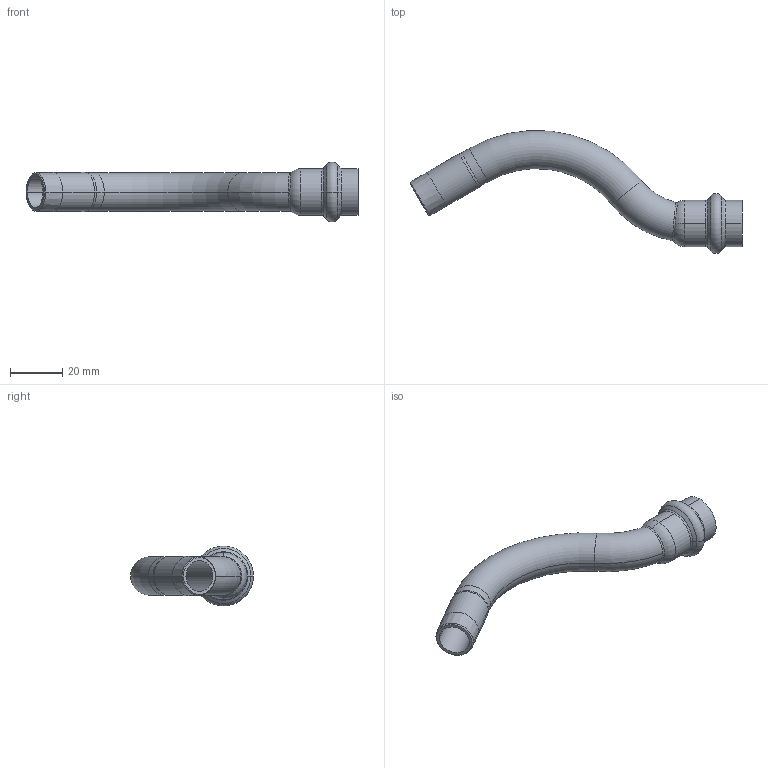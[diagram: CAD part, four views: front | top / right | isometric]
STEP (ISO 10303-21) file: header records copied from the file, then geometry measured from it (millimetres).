
FILE_DESCRIPTION (( 'STEP AP203' ), '1' );
FILE_NAME ('SP5086 Ø15.STEP', '2017-04-24T08:27:13', ( '' ), ( '' ), 'SwSTEP 2.0', 'SolidWorks 2016', '' );
FILE_SCHEMA (( 'CONFIG_CONTROL_DESIGN' ));
Length unit declared in the file: millimetre
Products named in the file (1): SP5086 ﾘ15
Bounding box: 127.5 x 47.18 x 23 mm (x, y, z)
Volume: 9232.6 mm3; surface area: 12424.3 mm2
Topology: 1 solids, 1 shells, 62 faces, 134 edges, 74 vertices
Faces by surface type: torus 28, cylinder 16, cone 14, bspline 2, plane 2
Entity records: 2253 total; most frequent: CARTESIAN_POINT 793, DIRECTION 336, ORIENTED_EDGE 268, AXIS2_PLACEMENT_3D 153, EDGE_CURVE 134, CIRCLE 92, VERTEX_POINT 74, EDGE_LOOP 64
